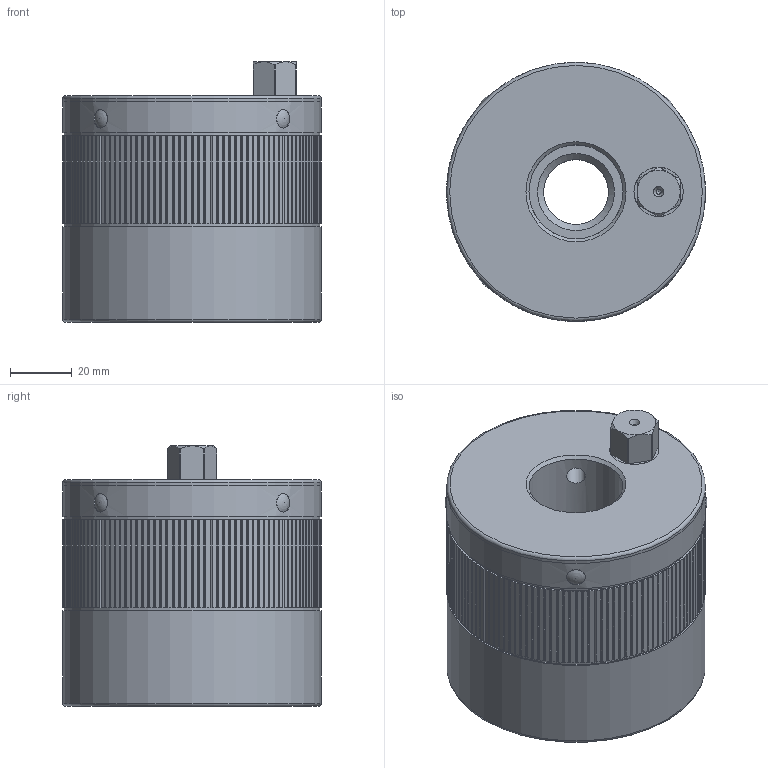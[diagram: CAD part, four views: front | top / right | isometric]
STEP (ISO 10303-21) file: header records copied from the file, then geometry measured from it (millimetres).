
FILE_DESCRIPTION(/* description */ ('Unknown','CAx-IF Rec.Pracs.---Representation and Presentation of Product Manufacturing Information (PMI)---4.0---2014-10-13','CAx-IF Rec.Pracs.---3D Tessellated Geometry---0.4---2014-09-14','2;1'),/* implementation_level */ '2;1');
FILE_NAME(/* name */ 'MDA 120_SW14_M24',/* time_stamp */ '2023-09-15T11:04:45+02:00',/* author */ ('Unknown'),/* organization */ ('Unknown'),/* preprocessor_version */ 'ST-DEVELOPER v18.102',/* originating_system */ 'Solid Edge',/* authorisation */ 'Unknown');
FILE_SCHEMA (('AP242_MANAGED_MODEL_BASED_3D_ENGINEERING_MIM_LF { 1 0 10303 442 1 1 4 }'));
Length unit declared in the file: millimetre
Products named in the file (7): 05933049; 43733046; 42231915; 46432086; KT100003; KT101191; 46331254
Assembly tree (9 placements, depth 2):
  05933049
    43733046
    42231915
    46432086
    KT100003  x4
    KT101191
    46331254
Bounding box: 84 x 84 x 84.5 mm (x, y, z)
Volume: 354240 mm3; surface area: 106566.4 mm2
Topology: 9 solids, 9 shells, 511 faces, 1439 edges, 949 vertices
Faces by surface type: plane 290, cylinder 167, cone 30, torus 10, sphere 8, bspline 6
Full cylindrical faces by diameter (mm): 1.6 x2, 6 x12, 16 x2, 16.5 x1, 21 x1, 30.5 x1, 48 x3, 66.2 x1, 71 x1, 74 x1, 76.5 x1, 76.9 x1, 77 x3, 83 x2, 84 x3
Entity records: 16520 total; most frequent: CARTESIAN_POINT 3353, DIRECTION 2638, ORIENTED_EDGE 2630, EDGE_CURVE 1315, LINE 918, VECTOR 918, VERTEX_POINT 911, AXIS2_PLACEMENT_3D 860
